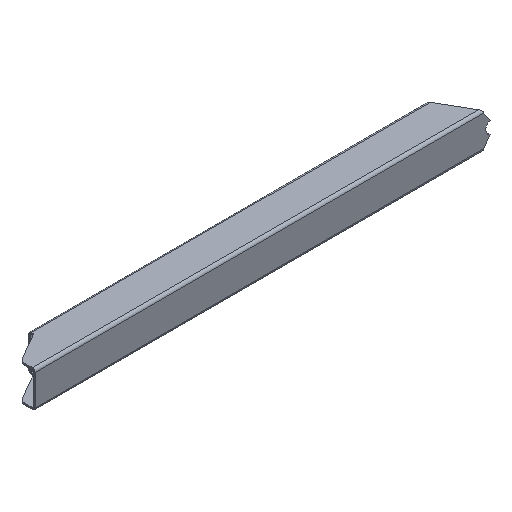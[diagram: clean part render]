
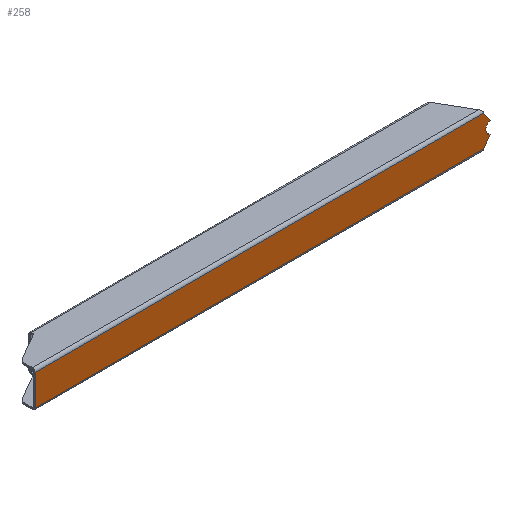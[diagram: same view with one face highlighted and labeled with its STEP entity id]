
A CAD part, isometric view. The second image highlights one B-rep face of the part: STEP entity #258.
In plain terms, the highlighted planar face has unit normal (0, -1, 0).
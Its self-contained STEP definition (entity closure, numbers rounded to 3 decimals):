
#20 = VECTOR ( 'NONE', #896, 1000. ) ;
#46 = CARTESIAN_POINT ( 'NONE',  ( 378.257, -15., -2.196 ) ) ;
#58 = CARTESIAN_POINT ( 'NONE',  ( 379.525, -15., 4.098 ) ) ;
#89 = LINE ( 'NONE', #1294, #20 ) ;
#143 = CARTESIAN_POINT ( 'NONE',  ( 378.257, -15., 2.196 ) ) ;
#201 = EDGE_CURVE ( 'NONE', #1470, #1053, #549, .T. ) ;
#258 = ADVANCED_FACE ( 'NONE', ( #1650 ), #333, .F. ) ;
#282 = EDGE_CURVE ( 'NONE', #941, #1690, #773, .T. ) ;
#309 = CARTESIAN_POINT ( 'NONE',  ( 390., -15., -12.75 ) ) ;
#333 = PLANE ( 'NONE',  #1003 ) ;
#358 = CARTESIAN_POINT ( 'NONE',  ( 376.685, -15., -12.75 ) ) ;
#367 = DIRECTION ( 'NONE',  ( -0.555, 0., 0.832 ) ) ;
#371 = LINE ( 'NONE', #1330, #671 ) ;
#524 = CARTESIAN_POINT ( 'NONE',  ( 376.685, -15., 12.75 ) ) ;
#536 = DIRECTION ( 'NONE',  ( -1., 0., 0. ) ) ;
#549 = LINE ( 'NONE', #309, #1137 ) ;
#633 = ORIENTED_EDGE ( 'NONE', *, *, #282, .T. ) ;
#653 = ORIENTED_EDGE ( 'NONE', *, *, #706, .T. ) ;
#671 = VECTOR ( 'NONE', #846, 1000. ) ;
#672 = CARTESIAN_POINT ( 'NONE',  ( 378.257, -15., 0. ) ) ;
#673 = CARTESIAN_POINT ( 'NONE',  ( 381.721, -15., 5.196 ) ) ;
#706 = EDGE_CURVE ( 'NONE', #1690, #1124, #931, .T. ) ;
#716 = ORIENTED_EDGE ( 'NONE', *, *, #1253, .T. ) ;
#761 = EDGE_CURVE ( 'NONE', #1053, #912, #89, .T. ) ;
#773 =( BOUNDED_CURVE ( )  B_SPLINE_CURVE ( 3, ( #672, #143, #58, #673 ),
 .UNSPECIFIED., .F., .F. ) 
 B_SPLINE_CURVE_WITH_KNOTS ( ( 4, 4 ),
 ( 0., 1.047 ),
 .UNSPECIFIED. ) 
 CURVE ( )  GEOMETRIC_REPRESENTATION_ITEM ( )  RATIONAL_B_SPLINE_CURVE ( ( 1., 0.911, 0.911, 1. ) ) 
 REPRESENTATION_ITEM ( '' )  );
#812 = DIRECTION ( 'NONE',  ( 0., 1., 0. ) ) ;
#825 = ORIENTED_EDGE ( 'NONE', *, *, #1700, .T. ) ;
#842 = DIRECTION ( 'NONE',  ( 0., 0., 1. ) ) ;
#846 = DIRECTION ( 'NONE',  ( 0.555, 0., 0.832 ) ) ;
#852 = VERTEX_POINT ( 'NONE', #1039 ) ;
#896 = DIRECTION ( 'NONE',  ( 0., 0., 1. ) ) ;
#912 = VERTEX_POINT ( 'NONE', #1091 ) ;
#924 = VECTOR ( 'NONE', #367, 1000. ) ;
#931 = LINE ( 'NONE', #1008, #924 ) ;
#941 = VERTEX_POINT ( 'NONE', #1540 ) ;
#967 = CARTESIAN_POINT ( 'NONE',  ( 378.257, -15., 0. ) ) ;
#1003 = AXIS2_PLACEMENT_3D ( 'NONE', #1236, #812, #842 ) ;
#1008 = CARTESIAN_POINT ( 'NONE',  ( 393.59, -15., -12.607 ) ) ;
#1023 = ORIENTED_EDGE ( 'NONE', *, *, #1322, .T. ) ;
#1039 = CARTESIAN_POINT ( 'NONE',  ( 381.721, -15., -5.196 ) ) ;
#1048 = CARTESIAN_POINT ( 'NONE',  ( 390., -15., 12.75 ) ) ;
#1053 = VERTEX_POINT ( 'NONE', #1472 ) ;
#1091 = CARTESIAN_POINT ( 'NONE',  ( 5., -15., 12.75 ) ) ;
#1103 =( BOUNDED_CURVE ( )  B_SPLINE_CURVE ( 3, ( #1343, #1728, #46, #967 ),
 .UNSPECIFIED., .F., .F. ) 
 B_SPLINE_CURVE_WITH_KNOTS ( ( 4, 4 ),
 ( 5.236, 6.283 ),
 .UNSPECIFIED. ) 
 CURVE ( )  GEOMETRIC_REPRESENTATION_ITEM ( )  RATIONAL_B_SPLINE_CURVE ( ( 1., 0.911, 0.911, 1. ) ) 
 REPRESENTATION_ITEM ( '' )  );
#1124 = VERTEX_POINT ( 'NONE', #524 ) ;
#1137 = VECTOR ( 'NONE', #1529, 1000. ) ;
#1229 = ORIENTED_EDGE ( 'NONE', *, *, #201, .F. ) ;
#1236 = CARTESIAN_POINT ( 'NONE',  ( 390., -15., -15. ) ) ;
#1253 = EDGE_CURVE ( 'NONE', #1470, #852, #371, .T. ) ;
#1294 = CARTESIAN_POINT ( 'NONE',  ( 5., -15., -15. ) ) ;
#1322 = EDGE_CURVE ( 'NONE', #1124, #912, #1660, .T. ) ;
#1330 = CARTESIAN_POINT ( 'NONE',  ( 379.744, -15., -8.162 ) ) ;
#1343 = CARTESIAN_POINT ( 'NONE',  ( 381.721, -15., -5.196 ) ) ;
#1372 = ORIENTED_EDGE ( 'NONE', *, *, #761, .F. ) ;
#1470 = VERTEX_POINT ( 'NONE', #358 ) ;
#1472 = CARTESIAN_POINT ( 'NONE',  ( 5., -15., -12.75 ) ) ;
#1529 = DIRECTION ( 'NONE',  ( -1., 0., 0. ) ) ;
#1540 = CARTESIAN_POINT ( 'NONE',  ( 378.257, -15., 0. ) ) ;
#1622 = VECTOR ( 'NONE', #536, 1000. ) ;
#1650 = FACE_OUTER_BOUND ( 'NONE', #1664, .T. ) ;
#1660 = LINE ( 'NONE', #1048, #1622 ) ;
#1663 = CARTESIAN_POINT ( 'NONE',  ( 381.721, -15., 5.196 ) ) ;
#1664 = EDGE_LOOP ( 'NONE', ( #825, #633, #653, #1023, #1372, #1229, #716 ) ) ;
#1690 = VERTEX_POINT ( 'NONE', #1663 ) ;
#1700 = EDGE_CURVE ( 'NONE', #852, #941, #1103, .T. ) ;
#1728 = CARTESIAN_POINT ( 'NONE',  ( 379.525, -15., -4.098 ) ) ;
